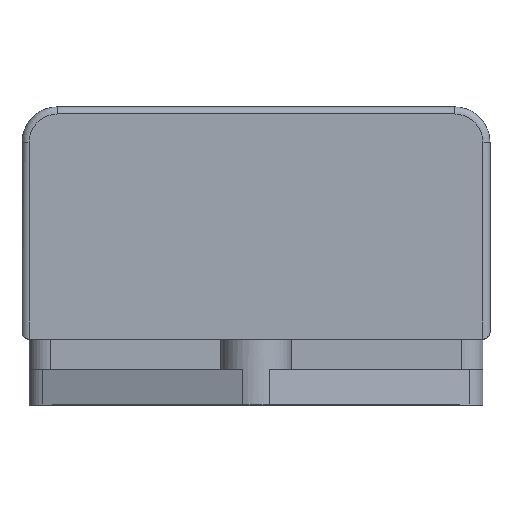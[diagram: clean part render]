
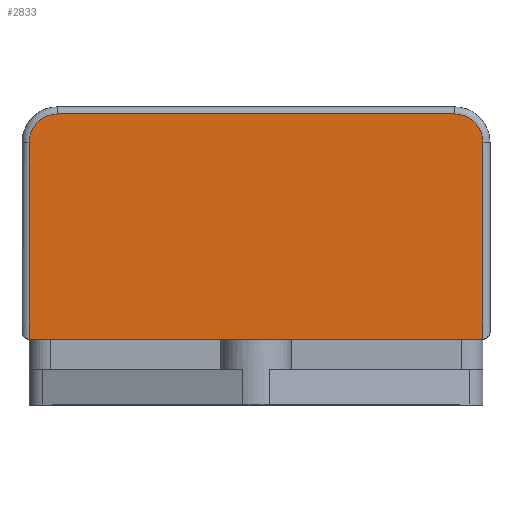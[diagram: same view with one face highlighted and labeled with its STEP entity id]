
A CAD part, top view. The second image highlights one B-rep face of the part: STEP entity #2833.
In plain terms, the highlighted planar face has unit normal (0, 0, 1).
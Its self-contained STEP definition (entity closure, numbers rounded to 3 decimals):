
#115 = CARTESIAN_POINT ( 'NONE',  ( 28., 12., 34. ) ) ;
#144 = DIRECTION ( 'NONE',  ( -1., 0., 0. ) ) ;
#257 = VERTEX_POINT ( 'NONE', #1043 ) ;
#287 = VECTOR ( 'NONE', #480, 1000. ) ;
#339 = ORIENTED_EDGE ( 'NONE', *, *, #1067, .T. ) ;
#400 = EDGE_CURVE ( 'NONE', #2488, #858, #795, .T. ) ;
#480 = DIRECTION ( 'NONE',  ( 0., -1., 0. ) ) ;
#606 = ORIENTED_EDGE ( 'NONE', *, *, #3826, .T. ) ;
#795 = LINE ( 'NONE', #873, #287 ) ;
#818 = LINE ( 'NONE', #2106, #1312 ) ;
#820 = CARTESIAN_POINT ( 'NONE',  ( 32., 12., 34. ) ) ;
#858 = VERTEX_POINT ( 'NONE', #3348 ) ;
#873 = CARTESIAN_POINT ( 'NONE',  ( -32., -15.75, 34. ) ) ;
#990 = CARTESIAN_POINT ( 'NONE',  ( -28., 12., 34. ) ) ;
#1043 = CARTESIAN_POINT ( 'NONE',  ( 32., 12., 34. ) ) ;
#1067 = EDGE_CURVE ( 'NONE', #3669, #257, #1219, .T. ) ;
#1075 = EDGE_CURVE ( 'NONE', #1192, #3403, #1515, .T. ) ;
#1108 = DIRECTION ( 'NONE',  ( -1., 0., 0. ) ) ;
#1192 = VERTEX_POINT ( 'NONE', #3894 ) ;
#1203 = CARTESIAN_POINT ( 'NONE',  ( -28., 16., 34. ) ) ;
#1219 = LINE ( 'NONE', #820, #1476 ) ;
#1312 = VECTOR ( 'NONE', #3398, 1000. ) ;
#1476 = VECTOR ( 'NONE', #4049, 1000. ) ;
#1515 = LINE ( 'NONE', #2810, #3499 ) ;
#1695 = EDGE_CURVE ( 'NONE', #257, #1192, #2556, .T. ) ;
#1777 = DIRECTION ( 'NONE',  ( 0., 0., 1. ) ) ;
#1863 = DIRECTION ( 'NONE',  ( -1., 0., 0. ) ) ;
#1872 = ORIENTED_EDGE ( 'NONE', *, *, #1075, .T. ) ;
#1889 = CARTESIAN_POINT ( 'NONE',  ( -32., 12., 34. ) ) ;
#1987 = EDGE_LOOP ( 'NONE', ( #606, #3911, #3658, #339, #2194, #1872 ) ) ;
#2106 = CARTESIAN_POINT ( 'NONE',  ( 33., -15.75, 34. ) ) ;
#2150 = DIRECTION ( 'NONE',  ( 0., 0., 1. ) ) ;
#2194 = ORIENTED_EDGE ( 'NONE', *, *, #1695, .T. ) ;
#2358 = AXIS2_PLACEMENT_3D ( 'NONE', #115, #1777, #1108 ) ;
#2404 = DIRECTION ( 'NONE',  ( 0., 0., 1. ) ) ;
#2461 = AXIS2_PLACEMENT_3D ( 'NONE', #990, #2150, #3140 ) ;
#2488 = VERTEX_POINT ( 'NONE', #1889 ) ;
#2518 = CARTESIAN_POINT ( 'NONE',  ( 32., -15.75, 34. ) ) ;
#2556 = CIRCLE ( 'NONE', #2358, 4. ) ;
#2669 = CIRCLE ( 'NONE', #2461, 4. ) ;
#2810 = CARTESIAN_POINT ( 'NONE',  ( -28., 16., 34. ) ) ;
#2833 = ADVANCED_FACE ( 'NONE', ( #3736 ), #3044, .T. ) ;
#2885 = EDGE_CURVE ( 'NONE', #858, #3669, #818, .T. ) ;
#3007 = AXIS2_PLACEMENT_3D ( 'NONE', #3420, #2404, #144 ) ;
#3044 = PLANE ( 'NONE',  #3007 ) ;
#3140 = DIRECTION ( 'NONE',  ( -1., 0., 0. ) ) ;
#3348 = CARTESIAN_POINT ( 'NONE',  ( -32., -15.75, 34. ) ) ;
#3398 = DIRECTION ( 'NONE',  ( 1., 0., 0. ) ) ;
#3403 = VERTEX_POINT ( 'NONE', #1203 ) ;
#3420 = CARTESIAN_POINT ( 'NONE',  ( 28., 12., 34. ) ) ;
#3499 = VECTOR ( 'NONE', #1863, 1000. ) ;
#3658 = ORIENTED_EDGE ( 'NONE', *, *, #2885, .T. ) ;
#3669 = VERTEX_POINT ( 'NONE', #2518 ) ;
#3736 = FACE_OUTER_BOUND ( 'NONE', #1987, .T. ) ;
#3826 = EDGE_CURVE ( 'NONE', #3403, #2488, #2669, .T. ) ;
#3894 = CARTESIAN_POINT ( 'NONE',  ( 28., 16., 34. ) ) ;
#3911 = ORIENTED_EDGE ( 'NONE', *, *, #400, .T. ) ;
#4049 = DIRECTION ( 'NONE',  ( 0., 1., 0. ) ) ;
